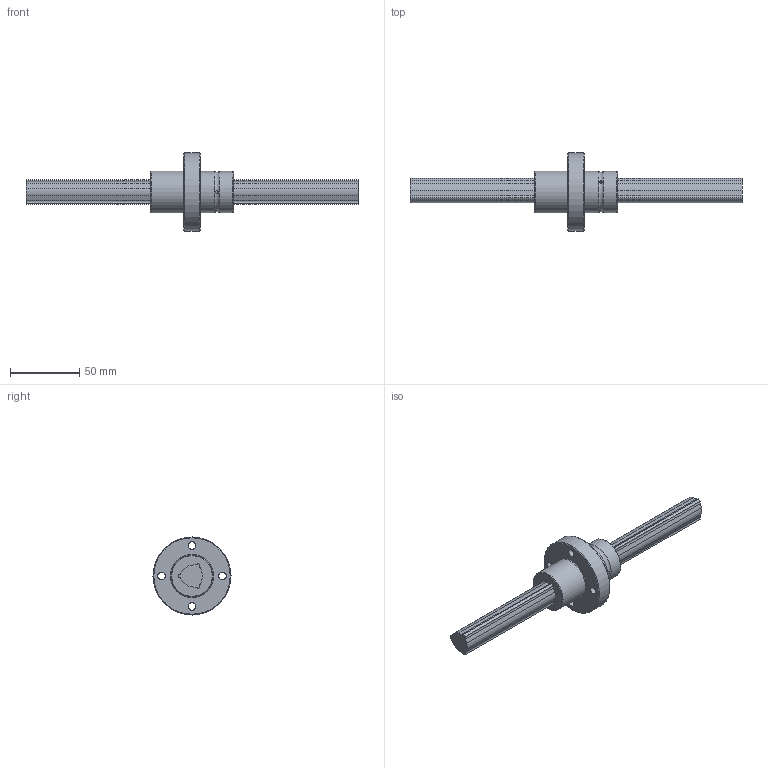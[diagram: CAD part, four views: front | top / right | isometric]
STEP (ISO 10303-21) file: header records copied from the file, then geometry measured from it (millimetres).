
FILE_DESCRIPTION(/* description */ ('STEP AP214'),/* implementation_level */ '2;1');
FILE_NAME(/* name */ 'LBR20+240L(60900)',/* time_stamp */ '2024-09-04T13:06:51+02:00',/* author */ ('License CC BY-ND 4.0'),/* organization */ ('CADENAS'),/* preprocessor_version */ 'ST-DEVELOPER v19.3',/* originating_system */ 'PARTsolutions',/* authorisation */ ' ');
FILE_SCHEMA (('AUTOMOTIVE_DESIGN {1 0 10303 214 3 1 1}'));
Length unit declared in the file: millimetre
Products named in the file (3): LBR20+240L(60900); LBR201240 Spline Shaft; LBR20 Nut
Assembly tree (2 placements, depth 2):
  LBR20+240L(60900)
    LBR201240 Spline Shaft
    LBR20 Nut
Bounding box: 240 x 56.4 x 56.4 mm (x, y, z)
Volume: 100418.4 mm3; surface area: 29237.5 mm2
Topology: 2 solids, 2 shells, 63 faces, 158 edges, 104 vertices
Faces by surface type: cylinder 35, plane 21, torus 5, cone 2
Full cylindrical faces by diameter (mm): 2 x3, 5.5 x4, 30 x2, 30.35 x1, 56.4 x1
Entity records: 1906 total; most frequent: DIRECTION 338, CARTESIAN_POINT 332, ORIENTED_EDGE 272, AXIS2_PLACEMENT_3D 139, EDGE_CURVE 136, VERTEX_POINT 100, EDGE_LOOP 96, FACE_BOUND 96
